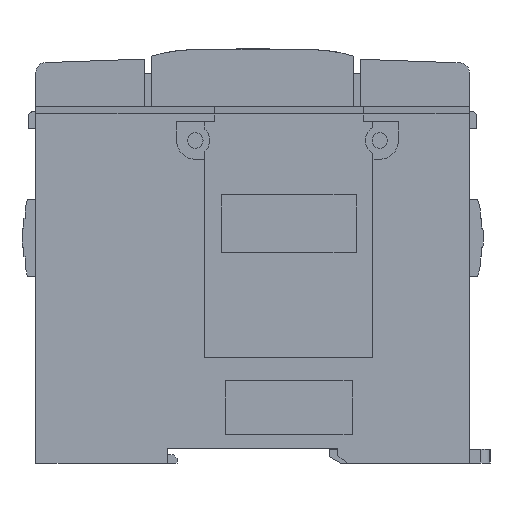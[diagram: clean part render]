
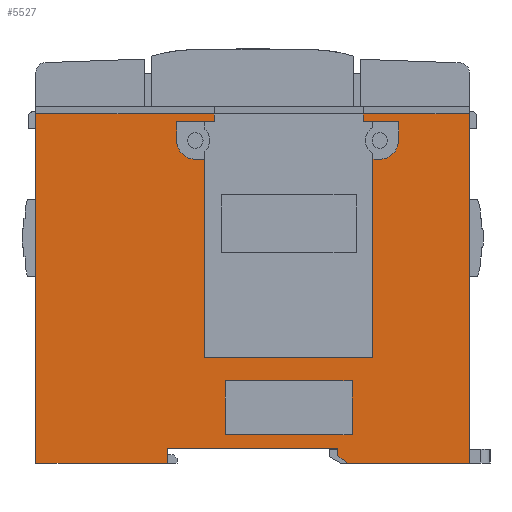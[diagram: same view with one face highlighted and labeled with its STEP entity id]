
A CAD part, left-side view. The second image highlights one B-rep face of the part: STEP entity #5527.
In plain terms, the highlighted planar face has unit normal (-1, 0, 0).
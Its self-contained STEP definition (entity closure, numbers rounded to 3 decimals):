
#2420=FACE_BOUND('',#11645,.T.);
#2421=FACE_BOUND('',#11646,.T.);
#4410=CIRCLE('',#48946,3.9);
#4411=CIRCLE('',#48947,3.9);
#5527=ADVANCED_FACE('',(#2420,#2421),#7799,.T.);
#7799=PLANE('',#48948);
#11645=EDGE_LOOP('',(#17024,#17025,#17026,#17027));
#11646=EDGE_LOOP('',(#17028,#17029,#17030,#17031,#17032,#17033,#17034,#17035,
#17036,#17037,#17038,#17039,#17040,#17041,#17042,#17043,#17044,#17045,#17046,
#17047,#17048,#17049,#17050));
#17024=ORIENTED_EDGE('',*,*,#33435,.T.);
#17025=ORIENTED_EDGE('',*,*,#33436,.T.);
#17026=ORIENTED_EDGE('',*,*,#33437,.T.);
#17027=ORIENTED_EDGE('',*,*,#33438,.T.);
#17028=ORIENTED_EDGE('',*,*,#33439,.T.);
#17029=ORIENTED_EDGE('',*,*,#33440,.T.);
#17030=ORIENTED_EDGE('',*,*,#33441,.T.);
#17031=ORIENTED_EDGE('',*,*,#33442,.T.);
#17032=ORIENTED_EDGE('',*,*,#33443,.T.);
#17033=ORIENTED_EDGE('',*,*,#33444,.T.);
#17034=ORIENTED_EDGE('',*,*,#33445,.T.);
#17035=ORIENTED_EDGE('',*,*,#33446,.T.);
#17036=ORIENTED_EDGE('',*,*,#33447,.T.);
#17037=ORIENTED_EDGE('',*,*,#33448,.T.);
#17038=ORIENTED_EDGE('',*,*,#33449,.T.);
#17039=ORIENTED_EDGE('',*,*,#33450,.T.);
#17040=ORIENTED_EDGE('',*,*,#33451,.T.);
#17041=ORIENTED_EDGE('',*,*,#33452,.T.);
#17042=ORIENTED_EDGE('',*,*,#33453,.T.);
#17043=ORIENTED_EDGE('',*,*,#33433,.T.);
#17044=ORIENTED_EDGE('',*,*,#33360,.F.);
#17045=ORIENTED_EDGE('',*,*,#33454,.F.);
#17046=ORIENTED_EDGE('',*,*,#33455,.T.);
#17047=ORIENTED_EDGE('',*,*,#33456,.T.);
#17048=ORIENTED_EDGE('',*,*,#33457,.T.);
#17049=ORIENTED_EDGE('',*,*,#33458,.T.);
#17050=ORIENTED_EDGE('',*,*,#33459,.T.);
#28244=VERTEX_POINT('',#66483);
#28245=VERTEX_POINT('',#66485);
#28303=VERTEX_POINT('',#66629);
#28304=VERTEX_POINT('',#66633);
#28305=VERTEX_POINT('',#66634);
#28306=VERTEX_POINT('',#66636);
#28307=VERTEX_POINT('',#66638);
#28308=VERTEX_POINT('',#66641);
#28309=VERTEX_POINT('',#66642);
#28310=VERTEX_POINT('',#66644);
#28311=VERTEX_POINT('',#66646);
#28312=VERTEX_POINT('',#66648);
#28313=VERTEX_POINT('',#66650);
#28314=VERTEX_POINT('',#66652);
#28315=VERTEX_POINT('',#66654);
#28316=VERTEX_POINT('',#66656);
#28317=VERTEX_POINT('',#66658);
#28318=VERTEX_POINT('',#66660);
#28319=VERTEX_POINT('',#66662);
#28320=VERTEX_POINT('',#66664);
#28321=VERTEX_POINT('',#66666);
#28322=VERTEX_POINT('',#66668);
#28323=VERTEX_POINT('',#66671);
#28324=VERTEX_POINT('',#66673);
#28325=VERTEX_POINT('',#66675);
#28326=VERTEX_POINT('',#66677);
#28327=VERTEX_POINT('',#66679);
#33360=EDGE_CURVE('',#28244,#28245,#39541,.T.);
#33433=EDGE_CURVE('',#28303,#28245,#39609,.T.);
#33435=EDGE_CURVE('',#28304,#28305,#39611,.T.);
#33436=EDGE_CURVE('',#28305,#28306,#39612,.T.);
#33437=EDGE_CURVE('',#28306,#28307,#39613,.T.);
#33438=EDGE_CURVE('',#28307,#28304,#39614,.T.);
#33439=EDGE_CURVE('',#28308,#28309,#39615,.T.);
#33440=EDGE_CURVE('',#28309,#28310,#39616,.T.);
#33441=EDGE_CURVE('',#28310,#28311,#39617,.T.);
#33442=EDGE_CURVE('',#28311,#28312,#39618,.T.);
#33443=EDGE_CURVE('',#28312,#28313,#39619,.T.);
#33444=EDGE_CURVE('',#28313,#28314,#4410,.T.);
#33445=EDGE_CURVE('',#28314,#28315,#39620,.T.);
#33446=EDGE_CURVE('',#28315,#28316,#39621,.T.);
#33447=EDGE_CURVE('',#28316,#28317,#39622,.T.);
#33448=EDGE_CURVE('',#28317,#28318,#39623,.T.);
#33449=EDGE_CURVE('',#28318,#28319,#39624,.T.);
#33450=EDGE_CURVE('',#28319,#28320,#4411,.T.);
#33451=EDGE_CURVE('',#28320,#28321,#39625,.T.);
#33452=EDGE_CURVE('',#28321,#28322,#39626,.T.);
#33453=EDGE_CURVE('',#28322,#28303,#39627,.T.);
#33454=EDGE_CURVE('',#28323,#28244,#39628,.T.);
#33455=EDGE_CURVE('',#28323,#28324,#39629,.T.);
#33456=EDGE_CURVE('',#28324,#28325,#39630,.T.);
#33457=EDGE_CURVE('',#28325,#28326,#39631,.T.);
#33458=EDGE_CURVE('',#28326,#28327,#39632,.T.);
#33459=EDGE_CURVE('',#28327,#28308,#39633,.T.);
#39541=LINE('',#66484,#44422);
#39609=LINE('',#66628,#44490);
#39611=LINE('',#66632,#44492);
#39612=LINE('',#66635,#44493);
#39613=LINE('',#66637,#44494);
#39614=LINE('',#66639,#44495);
#39615=LINE('',#66640,#44496);
#39616=LINE('',#66643,#44497);
#39617=LINE('',#66645,#44498);
#39618=LINE('',#66647,#44499);
#39619=LINE('',#66649,#44500);
#39620=LINE('',#66653,#44501);
#39621=LINE('',#66655,#44502);
#39622=LINE('',#66657,#44503);
#39623=LINE('',#66659,#44504);
#39624=LINE('',#66661,#44505);
#39625=LINE('',#66665,#44506);
#39626=LINE('',#66667,#44507);
#39627=LINE('',#66669,#44508);
#39628=LINE('',#66670,#44509);
#39629=LINE('',#66672,#44510);
#39630=LINE('',#66674,#44511);
#39631=LINE('',#66676,#44512);
#39632=LINE('',#66678,#44513);
#39633=LINE('',#66680,#44514);
#44422=VECTOR('',#54192,1.);
#44490=VECTOR('',#54296,1.);
#44492=VECTOR('',#54300,1.);
#44493=VECTOR('',#54301,1.);
#44494=VECTOR('',#54302,1.);
#44495=VECTOR('',#54303,1.);
#44496=VECTOR('',#54304,1.);
#44497=VECTOR('',#54305,1.);
#44498=VECTOR('',#54306,1.);
#44499=VECTOR('',#54307,1.);
#44500=VECTOR('',#54308,1.);
#44501=VECTOR('',#54311,1.);
#44502=VECTOR('',#54312,1.);
#44503=VECTOR('',#54313,1.);
#44504=VECTOR('',#54314,1.);
#44505=VECTOR('',#54315,1.);
#44506=VECTOR('',#54318,1.);
#44507=VECTOR('',#54319,1.);
#44508=VECTOR('',#54320,1.);
#44509=VECTOR('',#54321,1.);
#44510=VECTOR('',#54322,1.);
#44511=VECTOR('',#54323,1.);
#44512=VECTOR('',#54324,1.);
#44513=VECTOR('',#54325,1.);
#44514=VECTOR('',#54326,1.);
#48946=AXIS2_PLACEMENT_3D('',#66651,#54309,#54310);
#48947=AXIS2_PLACEMENT_3D('',#66663,#54316,#54317);
#48948=AXIS2_PLACEMENT_3D('',#66681,#54327,#54328);
#54192=DIRECTION('',(0.,0.,1.));
#54296=DIRECTION('',(0.,1.,0.));
#54300=DIRECTION('',(0.,-1.,0.));
#54301=DIRECTION('',(0.,0.,-1.));
#54302=DIRECTION('',(0.,1.,0.));
#54303=DIRECTION('',(0.,0.,1.));
#54304=DIRECTION('',(0.,0.,1.));
#54305=DIRECTION('',(0.,1.,0.));
#54306=DIRECTION('',(0.,0.,-1.));
#54307=DIRECTION('',(0.,-1.,0.));
#54308=DIRECTION('',(0.,0.,-1.));
#54309=DIRECTION('',(1.,0.,0.));
#54310=DIRECTION('',(0.,0.,-1.));
#54311=DIRECTION('',(0.,1.,0.));
#54312=DIRECTION('',(0.,0.,-1.));
#54313=DIRECTION('',(0.,1.,0.));
#54314=DIRECTION('',(0.,0.,1.));
#54315=DIRECTION('',(0.,1.,0.));
#54316=DIRECTION('',(1.,0.,0.));
#54317=DIRECTION('',(0.,0.,-1.));
#54318=DIRECTION('',(0.,0.,1.));
#54319=DIRECTION('',(0.,-1.,0.));
#54320=DIRECTION('',(0.,0.,1.));
#54321=DIRECTION('',(0.,1.,0.));
#54322=DIRECTION('',(0.,0.,1.));
#54323=DIRECTION('',(0.,-1.,0.));
#54324=DIRECTION('',(0.,0.,-1.));
#54325=DIRECTION('',(0.,-0.8,-0.6));
#54326=DIRECTION('',(0.,-1.,0.));
#54327=DIRECTION('',(-1.,0.,0.));
#54328=DIRECTION('',(0.,-1.,0.));
#66483=CARTESIAN_POINT('',(-142.5,45.,0.));
#66484=CARTESIAN_POINT('',(-142.5,45.,-0.1));
#66485=CARTESIAN_POINT('',(-142.5,45.,72.5));
#66628=CARTESIAN_POINT('',(-142.5,45.,72.5));
#66629=CARTESIAN_POINT('',(-142.5,8.,72.5));
#66632=CARTESIAN_POINT('',(-142.5,45.,17.1));
#66633=CARTESIAN_POINT('',(-142.5,5.65,17.1));
#66634=CARTESIAN_POINT('',(-142.5,-20.65,17.1));
#66635=CARTESIAN_POINT('',(-142.5,-20.65,0.));
#66636=CARTESIAN_POINT('',(-142.5,-20.65,5.9));
#66637=CARTESIAN_POINT('',(-142.5,45.,5.9));
#66638=CARTESIAN_POINT('',(-142.5,5.65,5.9));
#66639=CARTESIAN_POINT('',(-142.5,5.65,0.));
#66640=CARTESIAN_POINT('',(-142.5,-45.,0.));
#66641=CARTESIAN_POINT('',(-142.5,-45.,0.));
#66642=CARTESIAN_POINT('',(-142.5,-45.,72.5));
#66643=CARTESIAN_POINT('',(-142.5,45.,72.5));
#66644=CARTESIAN_POINT('',(-142.5,-23.,72.5));
#66645=CARTESIAN_POINT('',(-142.5,-23.,0.));
#66646=CARTESIAN_POINT('',(-142.5,-23.,70.9));
#66647=CARTESIAN_POINT('',(-142.5,45.,70.9));
#66648=CARTESIAN_POINT('',(-142.5,-30.3,70.9));
#66649=CARTESIAN_POINT('',(-142.5,-30.3,0.));
#66650=CARTESIAN_POINT('',(-142.5,-30.3,67.));
#66651=CARTESIAN_POINT('',(-142.5,-26.4,67.));
#66652=CARTESIAN_POINT('',(-142.5,-26.4,63.1));
#66653=CARTESIAN_POINT('',(-142.5,45.,63.1));
#66654=CARTESIAN_POINT('',(-142.5,-25.,63.1));
#66655=CARTESIAN_POINT('',(-142.5,-25.,0.));
#66656=CARTESIAN_POINT('',(-142.5,-25.,22.));
#66657=CARTESIAN_POINT('',(-142.5,45.,22.));
#66658=CARTESIAN_POINT('',(-142.5,10.,22.));
#66659=CARTESIAN_POINT('',(-142.5,10.,0.));
#66660=CARTESIAN_POINT('',(-142.5,10.,63.1));
#66661=CARTESIAN_POINT('',(-142.5,45.,63.1));
#66662=CARTESIAN_POINT('',(-142.5,11.9,63.1));
#66663=CARTESIAN_POINT('',(-142.5,11.9,67.));
#66664=CARTESIAN_POINT('',(-142.5,15.8,67.));
#66665=CARTESIAN_POINT('',(-142.5,15.8,0.));
#66666=CARTESIAN_POINT('',(-142.5,15.8,70.9));
#66667=CARTESIAN_POINT('',(-142.5,45.,70.9));
#66668=CARTESIAN_POINT('',(-142.5,8.,70.9));
#66669=CARTESIAN_POINT('',(-142.5,8.,0.));
#66670=CARTESIAN_POINT('',(-142.5,45.5,0.));
#66671=CARTESIAN_POINT('',(-142.5,17.7,0.));
#66672=CARTESIAN_POINT('',(-142.5,17.7,0.));
#66673=CARTESIAN_POINT('',(-142.5,17.7,3.));
#66674=CARTESIAN_POINT('',(-142.5,45.,3.));
#66675=CARTESIAN_POINT('',(-142.5,-17.7,3.));
#66676=CARTESIAN_POINT('',(-142.5,-17.7,0.));
#66677=CARTESIAN_POINT('',(-142.5,-17.7,1.5));
#66678=CARTESIAN_POINT('',(-142.5,-17.7,1.5));
#66679=CARTESIAN_POINT('',(-142.5,-19.7,0.));
#66680=CARTESIAN_POINT('',(-142.5,45.,0.));
#66681=CARTESIAN_POINT('',(-142.5,45.,0.));
